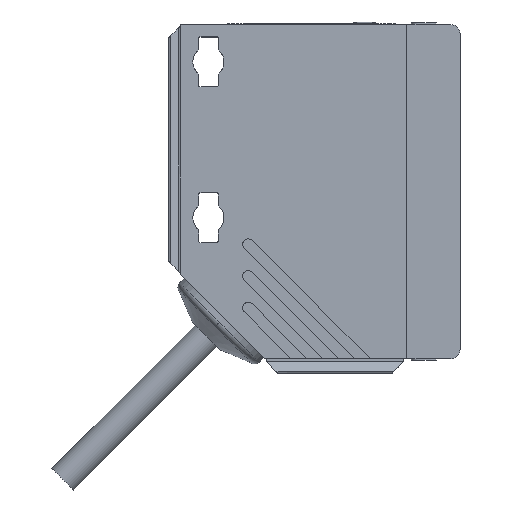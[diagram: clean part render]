
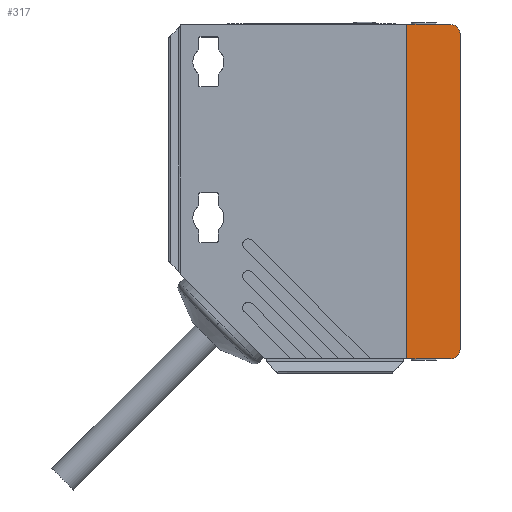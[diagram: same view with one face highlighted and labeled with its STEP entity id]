
A CAD part, top view. The second image highlights one B-rep face of the part: STEP entity #317.
In plain terms, the highlighted planar face has unit normal (0, 0, 1).
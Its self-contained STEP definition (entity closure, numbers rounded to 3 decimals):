
#317 = ADVANCED_FACE( '', ( #783 ), #784, .T. );
#783 = FACE_OUTER_BOUND( '', #1320, .T. );
#784 = PLANE( '', #1321 );
#1320 = EDGE_LOOP( '', ( #3058, #3059, #3060, #3061, #3062, #3063 ) );
#1321 = AXIS2_PLACEMENT_3D( '', #3064, #3065, #3066 );
#3058 = ORIENTED_EDGE( '', *, *, #4170, .T. );
#3059 = ORIENTED_EDGE( '', *, *, #4177, .T. );
#3060 = ORIENTED_EDGE( '', *, *, #4180, .T. );
#3061 = ORIENTED_EDGE( '', *, *, #4183, .T. );
#3062 = ORIENTED_EDGE( '', *, *, #4186, .T. );
#3063 = ORIENTED_EDGE( '', *, *, #4188, .T. );
#3064 = CARTESIAN_POINT( '', ( 0., 0., 9.125 ) );
#3065 = DIRECTION( '', ( 0., 0., 1. ) );
#3066 = DIRECTION( '', ( 1., 0., 0. ) );
#4170 = EDGE_CURVE( '', #5249, #5247, #5250, .T. );
#4177 = EDGE_CURVE( '', #5247, #5259, #5261, .T. );
#4180 = EDGE_CURVE( '', #5259, #5264, #5266, .T. );
#4183 = EDGE_CURVE( '', #5264, #5269, #5271, .T. );
#4186 = EDGE_CURVE( '', #5269, #5274, #5276, .T. );
#4188 = EDGE_CURVE( '', #5274, #5249, #5278, .T. );
#5247 = VERTEX_POINT( '', #6785 );
#5249 = VERTEX_POINT( '', #6788 );
#5250 = LINE( '', #6789, #6790 );
#5259 = VERTEX_POINT( '', #6804 );
#5261 = LINE( '', #6807, #6808 );
#5264 = VERTEX_POINT( '', #6811 );
#5266 = CIRCLE( '', #6814, 1.5 );
#5269 = VERTEX_POINT( '', #6818 );
#5271 = LINE( '', #6821, #6822 );
#5274 = VERTEX_POINT( '', #6825 );
#5276 = CIRCLE( '', #6828, 1.5 );
#5278 = LINE( '', #6831, #6832 );
#6785 = CARTESIAN_POINT( '', ( 29.355, -6.55, 9.125 ) );
#6788 = CARTESIAN_POINT( '', ( 29.355, 47.1, 9.125 ) );
#6789 = CARTESIAN_POINT( '', ( 29.355, 47.1, 9.125 ) );
#6790 = VECTOR( '', #8171, 1. );
#6804 = CARTESIAN_POINT( '', ( 36.405, -6.55, 9.125 ) );
#6807 = CARTESIAN_POINT( '', ( 29.355, -6.55, 9.125 ) );
#6808 = VECTOR( '', #8178, 1. );
#6811 = CARTESIAN_POINT( '', ( 37.905, -5.05, 9.125 ) );
#6814 = AXIS2_PLACEMENT_3D( '', #8183, #8184, #8185 );
#6818 = CARTESIAN_POINT( '', ( 37.905, 45.6, 9.125 ) );
#6821 = CARTESIAN_POINT( '', ( 37.905, -5.05, 9.125 ) );
#6822 = VECTOR( '', #8188, 1. );
#6825 = CARTESIAN_POINT( '', ( 36.405, 47.1, 9.125 ) );
#6828 = AXIS2_PLACEMENT_3D( '', #8193, #8194, #8195 );
#6831 = CARTESIAN_POINT( '', ( 36.405, 47.1, 9.125 ) );
#6832 = VECTOR( '', #8197, 1. );
#8171 = DIRECTION( '', ( 0., -1., 0. ) );
#8178 = DIRECTION( '', ( 1., 0., 0. ) );
#8183 = CARTESIAN_POINT( '', ( 36.405, -5.05, 9.125 ) );
#8184 = DIRECTION( '', ( 0., 0., 1. ) );
#8185 = DIRECTION( '', ( 0., -1., 0. ) );
#8188 = DIRECTION( '', ( 0., 1., 0. ) );
#8193 = CARTESIAN_POINT( '', ( 36.405, 45.6, 9.125 ) );
#8194 = DIRECTION( '', ( 0., 0., 1. ) );
#8195 = DIRECTION( '', ( 1., 0., 0. ) );
#8197 = DIRECTION( '', ( -1., 0., 0. ) );
